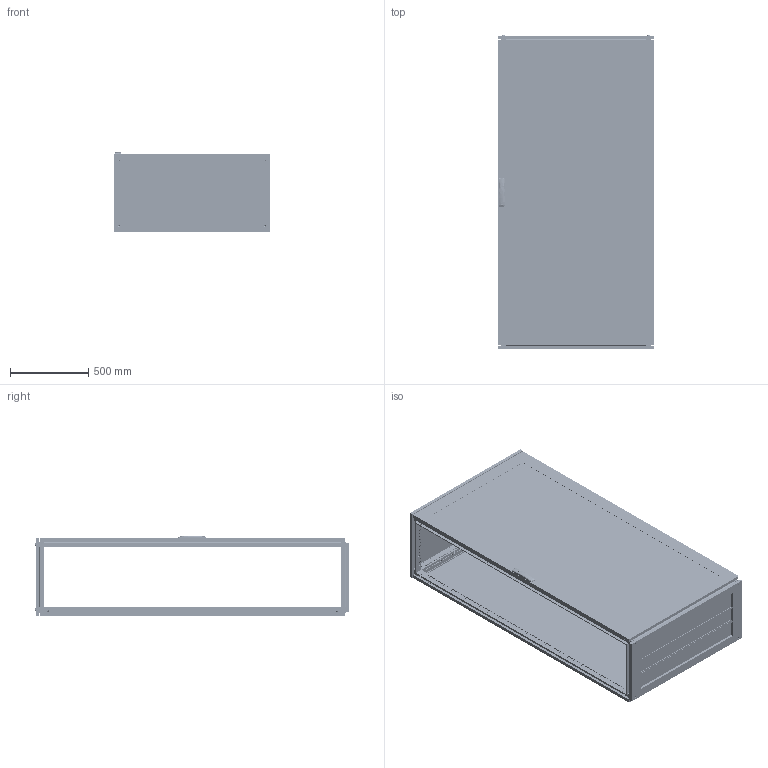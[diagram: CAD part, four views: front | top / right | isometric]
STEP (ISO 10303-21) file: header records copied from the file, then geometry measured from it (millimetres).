
FILE_DESCRIPTION (( 'STEP AP203' ), '1' );
FILE_NAME ('R5CQEN20105AX.STEP', '2025-05-07T12:02:30', ( '' ), ( '' ), 'SwSTEP 2.0', 'SolidWorks 2022', '' );
FILE_SCHEMA (( 'CONFIG_CONTROL_DESIGN' ));
Length unit declared in the file: millimetre
Products named in the file (65): RB.0562.00.00.0 СБ simple_-17; R5NKTB - Assem simple_H=2000 R5NKTB105; M6 MGR-MKO-0625 simple_Thread; M6 DIN 985 cl.6,0 Zinc_straight; TPA.08.0139.00.03.0; RB.0528.04.00.0 СБ simple; RB.2755.00.00.0 СБ simple_-25; RB.0528.04.01.0 simple; RB.2680.00.00.0 СБ simple; RB.2499.00.00.0 СБ simple_-25; RB.1633.00.01.0 simple_-04; Glass CPTE_2000x1000; R5NKMN - Assem simple_R5NKMN20 (1000х500); 7 DIN 6799 Zinc simple; PF 5x10 KTB simple_1000х500; Pressing stud FH-M6-12_M6x12mm; TPA.08.0083.00.00.0 simple; 7 DIN 6799 Zinc; RB.2969.00.00.0 СБ simple; RB.2685.00.00.0 simple_-01; M6x15 Erickson cl.4,8 Zinc; RB.0562.01.01.0 simple_-17; PF 7x14 CRE simple_2000x1000; RB.2686.00.00.0 simple; RB.2172.00.00.1 simple; RB.0528.00.01.0 simple_-05; M8x12 AC00C476 cl.8,8 Zinc_stright; PF 7,5x15 CPE simple_2000x1000; M6x10 DIN 7500 M Torx cl.5.8 Zinc_straight; RB.2968.00.00.0 simple; RB.2696.00.00.0 simple; AC00C446-R; R5CQEN20105AX; RB.1867.01.00.0 СБ simple_-59; RB.2357.00.00.0 simple_-07; Pin 4x16 DIN 7 AISI 303 (A1) simple; ATOS Traction guide ILY03.35; 4.8x13 DIN 7981 PH Zinc_straight; TPA.08.0084.00.00.0 simple; Square cap 20x20 simple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
Assembly tree (176 placements, depth 5):
  R5CQEN20105AX
    R5NCPTE - Assem simple_R5NCPTE20100
      RB.0562.00.00.0 СБ simple_-17
        RB.0562.01.00.0 СБ simple_-17
          RB.0562.01.01.0 simple_-17
          М6х12 A5100231_straight  x9
          RB.2702.00.00.0 simple  x4
          PF 7,5x15 CPE simple_2000x1000
          Glass CPTE_2000x1000
          Glue CPTE simple_2000x1000
        Square cap 20x20 simple  x2
        M6x15 Erickson cl.4,8 Zinc  x3
        RB.0528.00.01.0 simple_-05  x2
        ATOS Traction guide ILY03.35  x4
        RB.2357.00.00.0 simple_-07
        RB.2680.00.00.0 СБ simple
          TPA.08.0139.00.01.0 simple
          RB.2680.00.01.0 simple
          RB.2680.00.02.0 simple  x2
        TPA.08.0139.00.03.0  x2
        M6 DIN 985 cl.6,0 Zinc_straight  x4
        4,0x16 F Torx Zinc (ART 88200)_thread  x2
        RB.0528.04.00.0 СБ simple  x2
          RB.0528.04.01.0 simple
          Pressing stud FH-M6-12_M6x12mm
      M6x10 DIN 912 HX cl.8,8 Zinc_straight  x8
      4.8x13 DIN 7981 PH Zinc_straight
      7 DIN 6799 Zinc simple  x4
      RB.2968.00.00.0 simple  x4
      RB.2969.00.00.0 СБ simple  x4
        RB.2969.00.01.0 simple
        Pin 4x16 DIN 7 AISI 303 (A1) simple
        M6 MGR-MKO-0625 simple_Thread
      AC00C446-R
      RB.2696.00.00.0 simple  x4
      7 DIN 6799 Zinc  x4
    R5NCRE-Assem simple_R5NCRE20100
      RB.2052.00.00.0 СБ simple_-25
        RB.2052.01.00.0 СБ simple_-25
          RB.0054.01.01.0 simple_-25
          М6х12 A5100231_straight  x4
        PF 7x14 CRE simple_2000x1000
      RB.2172.00.00.1 simple  x8
      M6x10 DIN 7500 E HX cl.5.8 Zinc_straight  x8
      M6x10 DIN 7500 M Torx cl.5.8 Zinc_straight  x8
    R5NKMN - Assem simple_R5NKMN20 (1000х500)
      RB.2528.00.00.0 simple_-05  x4
    R5NKTB - Assem simple_H=2000 R5NKTB105
      RB.2499.00.00.0 СБ simple_-25
        RB.2499.01.00.0 СБ simple_-24
          RB.1633.00.01.0 simple_-04  x2
          RB.1633.00.02.0 simple_-01  x2
          PF 5x10 KTB simple_1000х500
        RB.2457.00.00.0 СБ simple_-25
          RB.2455.00.00.0 simple_-04  x2
          RB.2456.00.00.0 simple_-01  x2
          TPA.08.0084.00.00.0 simple  x2
          TPA.08.0083.00.00.0 simple  x2
          M8x12 AC00C476 cl.8,8 Zinc_stright  x4
        RB.1957.00.00.0 simple_-15  x3
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Bounding box: 1000 x 2013.3 x 514.79 mm (x, y, z)
Volume: 20972859 mm3; surface area: 17626901.5 mm2
Topology: 179 solids, 195 shells, 23517 faces, 66807 edges, 44036 vertices
Faces by surface type: plane 13035, cylinder 8931, cone 714, bspline 435, torus 368, sphere 34
Entity records: 233821 total; most frequent: CARTESIAN_POINT 57014, ORIENTED_EDGE 35098, DIRECTION 33605, EDGE_CURVE 17575, VERTEX_POINT 11642, AXIS2_PLACEMENT_3D 11304, LINE 10997, VECTOR 10997
